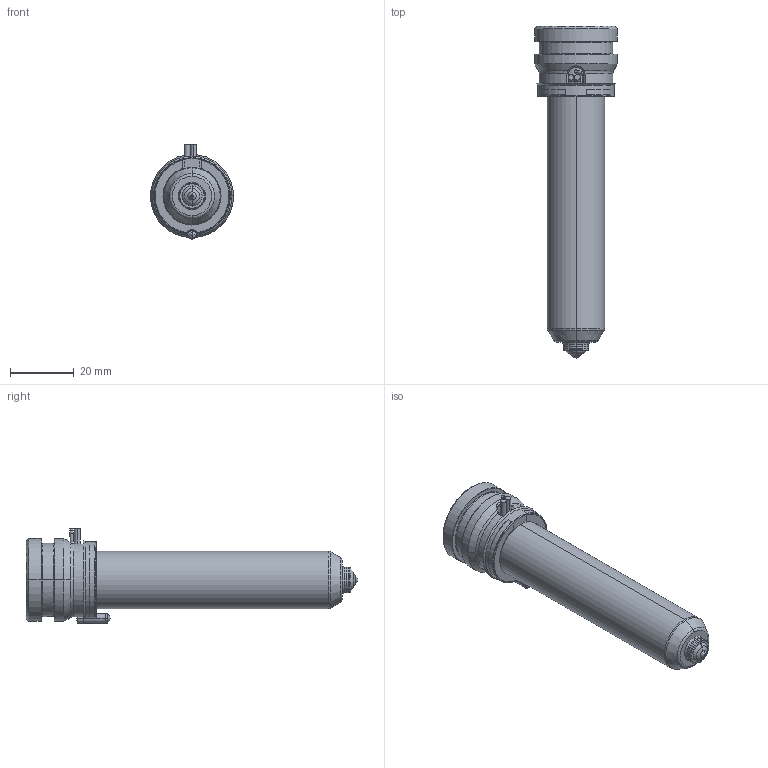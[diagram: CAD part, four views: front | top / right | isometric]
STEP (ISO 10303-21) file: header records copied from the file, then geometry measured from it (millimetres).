
FILE_DESCRIPTION((''),'2;1');
FILE_NAME('TH18086-A-1GLT-PK-JG','2023-12-14T',('umhib'),('Thermoplay S.p.A.'),'PRO/ENGINEER BY PARAMETRIC TECHNOLOGY CORPORATION, 2017170','PRO/ENGINEER BY PARAMETRIC TECHNOLOGY CORPORATION, 2017170','');
FILE_SCHEMA(('CONFIG_CONTROL_DESIGN'));
Length unit declared in the file: millimetre
Products named in the file (1): TH18086-A-1GLT-PK-JG
Bounding box: 26 x 104 x 29.5 mm (x, y, z)
Volume: 22293.8 mm3; surface area: 16453.4 mm2
Topology: 1 solids, 2 shells, 418 faces, 1085 edges, 675 vertices
Faces by surface type: cylinder 162, plane 90, cone 68, torus 62, bspline 24, sphere 10, extrusion 2
Entity records: 18145 total; most frequent: CARTESIAN_POINT 5862, DIRECTION 2189, ORIENTED_EDGE 2146, EDGE_CURVE 1075, AXIS2_PLACEMENT_3D 887, VERTEX_POINT 675, CIRCLE 494, EDGE_LOOP 443
